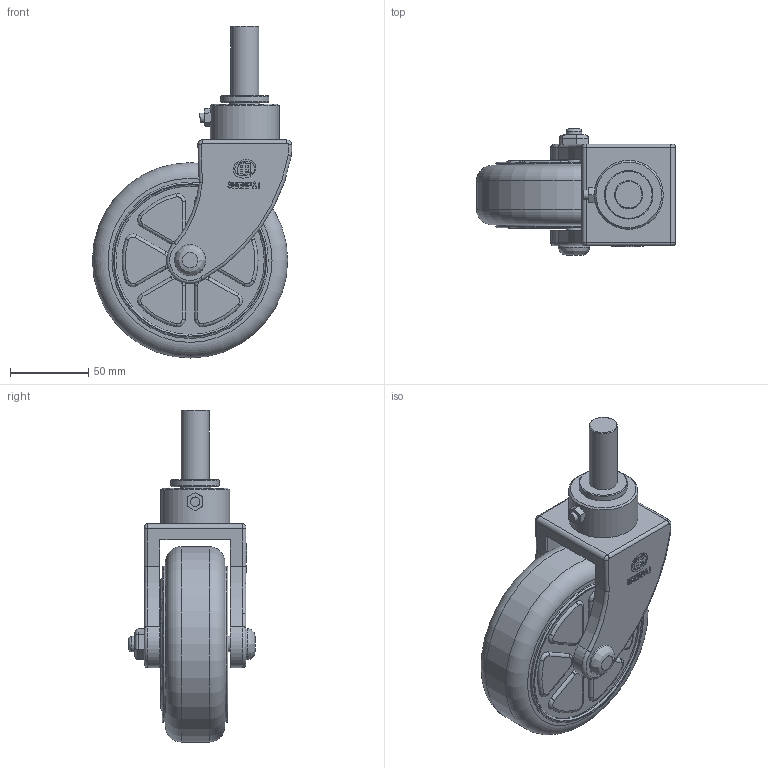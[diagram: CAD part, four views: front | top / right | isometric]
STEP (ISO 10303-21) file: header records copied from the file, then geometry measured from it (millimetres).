
FILE_DESCRIPTION(/* description */ (''),/* implementation_level */ '2;1');
FILE_NAME(/* name */ '25D01_5_F.stp',/* time_stamp */ '2022-08-27T14:14:36+08:00',/* author */ (''),/* organization */ (''),/* preprocessor_version */ 'ST-DEVELOPER v14',/* originating_system */ 'SIEMENS PLM Software NX 8.0',/* authorisation */ '');
FILE_SCHEMA (('AUTOMOTIVE_DESIGN { 1 0 10303 214 3 1 1 1 }'));
Length unit declared in the file: millimetre
Products named in the file (1): 25D01_5_F
Bounding box: 127.5 x 81 x 212.5 mm (x, y, z)
Volume: 516818.5 mm3; surface area: 87809.2 mm2
Topology: 1 solids, 3 shells, 434 faces, 1107 edges, 729 vertices
Faces by surface type: plane 234, cylinder 100, torus 90, cone 5, bspline 5
Full cylindrical faces by diameter (mm): 6 x1, 10 x5, 11 x2, 15 x1, 17 x1, 18 x1, 20 x2, 28 x1, 31 x1, 41.147 x1, 44.147 x1, 95 x1, 100 x2, 125 x1
Entity records: 13491 total; most frequent: CARTESIAN_POINT 3258, ORIENTED_EDGE 2126, DIRECTION 2081, EDGE_CURVE 1063, AXIS2_PLACEMENT_3D 846, VERTEX_POINT 722, EDGE_LOOP 527, ADVANCED_FACE 434
